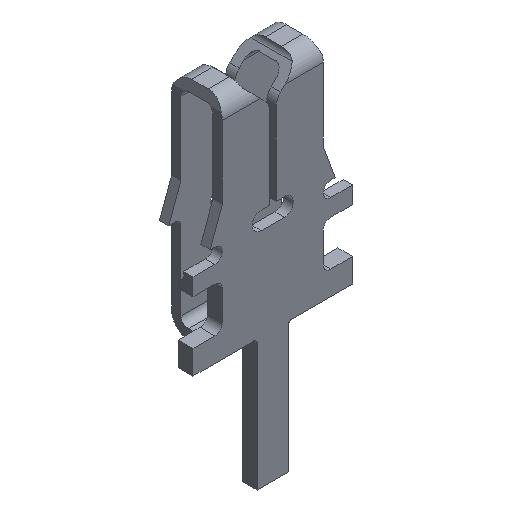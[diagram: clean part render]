
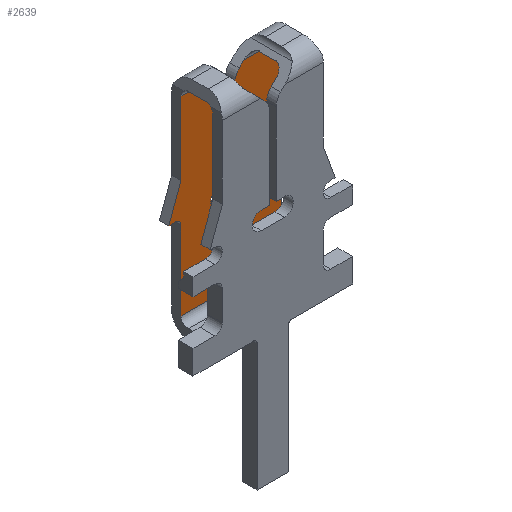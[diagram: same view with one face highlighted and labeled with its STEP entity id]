
A CAD part, isometric view. The second image highlights one B-rep face of the part: STEP entity #2639.
In plain terms, the highlighted planar face has unit normal (0, -1, 0).
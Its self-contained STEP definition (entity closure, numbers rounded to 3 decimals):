
#914=DIRECTION('',(-1.,0.,0.));
#915=VECTOR('',#914,0.235);
#916=CARTESIAN_POINT('',(2.127,1.407,-4.191));
#917=LINE('',#916,#915);
#918=DIRECTION('',(0.,0.,1.));
#919=VECTOR('',#918,2.677);
#920=CARTESIAN_POINT('',(1.715,1.407,-7.046));
#921=LINE('',#920,#919);
#922=DIRECTION('',(1.,0.,0.));
#923=VECTOR('',#922,3.429);
#924=CARTESIAN_POINT('',(-1.715,1.407,-7.046));
#925=LINE('',#924,#923);
#926=DIRECTION('',(0.,0.,1.));
#927=VECTOR('',#926,2.677);
#928=CARTESIAN_POINT('',(-1.715,1.407,-7.046));
#929=LINE('',#928,#927);
#930=DIRECTION('',(1.,0.,0.));
#931=VECTOR('',#930,0.235);
#932=CARTESIAN_POINT('',(-2.127,1.407,-4.191));
#933=LINE('',#932,#931);
#934=DIRECTION('',(0.342,0.,0.94));
#935=VECTOR('',#934,1.207);
#936=CARTESIAN_POINT('',(-2.127,1.407,-4.191));
#937=LINE('',#936,#935);
#938=DIRECTION('',(0.,0.,-1.));
#939=VECTOR('',#938,2.483);
#940=CARTESIAN_POINT('',(-1.715,1.407,-0.574));
#941=LINE('',#940,#939);
#942=DIRECTION('',(1.,0.,0.));
#943=VECTOR('',#942,1.285);
#944=CARTESIAN_POINT('',(-1.715,1.407,-0.574));
#945=LINE('',#944,#943);
#946=DIRECTION('',(0.707,0.,-0.707));
#947=VECTOR('',#946,0.235);
#948=CARTESIAN_POINT('',(-0.429,1.407,-0.574));
#949=LINE('',#948,#947);
#950=CARTESIAN_POINT('',(-0.622,1.407,-1.099));
#951=DIRECTION('',(0.,1.,0.));
#952=DIRECTION('',(0.707,0.,0.707));
#953=AXIS2_PLACEMENT_3D('',#950,#951,#952);
#955=DIRECTION('',(0.,0.,1.));
#956=VECTOR('',#955,2.787);
#957=CARTESIAN_POINT('',(-0.114,1.407,-3.886));
#958=LINE('',#957,#956);
#959=DIRECTION('',(1.,0.,0.));
#960=VECTOR('',#959,0.279);
#961=CARTESIAN_POINT('',(-0.394,1.407,-3.886));
#962=LINE('',#961,#960);
#963=CARTESIAN_POINT('',(-0.394,1.407,-4.191));
#964=DIRECTION('',(0.,1.,0.));
#965=DIRECTION('',(0.,0.,-1.));
#966=AXIS2_PLACEMENT_3D('',#963,#964,#965);
#968=DIRECTION('',(-1.,0.,0.));
#969=VECTOR('',#968,0.787);
#970=CARTESIAN_POINT('',(0.394,1.407,-4.496));
#971=LINE('',#970,#969);
#972=CARTESIAN_POINT('',(0.394,1.407,-4.191));
#973=DIRECTION('',(0.,1.,0.));
#974=DIRECTION('',(0.,0.,1.));
#975=AXIS2_PLACEMENT_3D('',#972,#973,#974);
#977=DIRECTION('',(1.,0.,0.));
#978=VECTOR('',#977,0.279);
#979=CARTESIAN_POINT('',(0.114,1.407,-3.886));
#980=LINE('',#979,#978);
#981=DIRECTION('',(0.,0.,-1.));
#982=VECTOR('',#981,2.787);
#983=CARTESIAN_POINT('',(0.114,1.407,-1.099));
#984=LINE('',#983,#982);
#985=CARTESIAN_POINT('',(0.622,1.407,-1.099));
#986=DIRECTION('',(0.,1.,0.));
#987=DIRECTION('',(-1.,0.,0.));
#988=AXIS2_PLACEMENT_3D('',#985,#986,#987);
#990=DIRECTION('',(-0.707,0.,-0.707));
#991=VECTOR('',#990,0.235);
#992=CARTESIAN_POINT('',(0.429,1.407,-0.574));
#993=LINE('',#992,#991);
#994=DIRECTION('',(1.,0.,0.));
#995=VECTOR('',#994,1.285);
#996=CARTESIAN_POINT('',(0.429,1.407,-0.574));
#997=LINE('',#996,#995);
#998=DIRECTION('',(0.,0.,-1.));
#999=VECTOR('',#998,2.483);
#1000=CARTESIAN_POINT('',(1.715,1.407,-0.574));
#1001=LINE('',#1000,#999);
#1002=DIRECTION('',(0.342,0.,-0.94));
#1003=VECTOR('',#1002,1.207);
#1004=CARTESIAN_POINT('',(1.715,1.407,-3.057));
#1005=LINE('',#1004,#1003);
#1015=CARTESIAN_POINT('',(1.892,1.407,-4.369));
#1016=DIRECTION('',(0.,1.,0.));
#1017=DIRECTION('',(-1.,0.,0.));
#1018=AXIS2_PLACEMENT_3D('',#1015,#1016,#1017);
#1135=CARTESIAN_POINT('',(-1.892,1.407,-4.369));
#1136=DIRECTION('',(0.,1.,0.));
#1137=DIRECTION('',(0.,0.,1.));
#1138=AXIS2_PLACEMENT_3D('',#1135,#1136,#1137);
#1406=CARTESIAN_POINT('',(-1.715,1.407,-0.574));
#1407=CARTESIAN_POINT('',(-1.715,1.407,-3.057));
#1408=VERTEX_POINT('',#1406);
#1409=VERTEX_POINT('',#1407);
#1410=CARTESIAN_POINT('',(1.715,1.407,-0.574));
#1411=CARTESIAN_POINT('',(1.715,1.407,-3.057));
#1412=VERTEX_POINT('',#1410);
#1413=VERTEX_POINT('',#1411);
#1422=CARTESIAN_POINT('',(2.127,1.407,-4.191));
#1424=VERTEX_POINT('',#1422);
#1426=CARTESIAN_POINT('',(-2.127,1.407,-4.191));
#1428=VERTEX_POINT('',#1426);
#1446=CARTESIAN_POINT('',(-1.715,1.407,-7.046));
#1447=VERTEX_POINT('',#1446);
#1448=CARTESIAN_POINT('',(1.715,1.407,-7.046));
#1449=VERTEX_POINT('',#1448);
#1542=CARTESIAN_POINT('',(-0.114,1.407,-3.886));
#1543=CARTESIAN_POINT('',(-0.114,1.407,-1.099));
#1544=VERTEX_POINT('',#1542);
#1545=VERTEX_POINT('',#1543);
#1546=CARTESIAN_POINT('',(-0.263,1.407,-0.74));
#1547=VERTEX_POINT('',#1546);
#1548=CARTESIAN_POINT('',(-0.429,1.407,-0.574));
#1549=VERTEX_POINT('',#1548);
#1550=CARTESIAN_POINT('',(0.429,1.407,-0.574));
#1551=CARTESIAN_POINT('',(0.263,1.407,-0.74));
#1552=VERTEX_POINT('',#1550);
#1553=VERTEX_POINT('',#1551);
#1554=CARTESIAN_POINT('',(0.114,1.407,-1.099));
#1555=VERTEX_POINT('',#1554);
#1556=CARTESIAN_POINT('',(0.114,1.407,-3.886));
#1557=VERTEX_POINT('',#1556);
#1558=CARTESIAN_POINT('',(0.394,1.407,-3.886));
#1559=VERTEX_POINT('',#1558);
#1560=CARTESIAN_POINT('',(0.394,1.407,-4.496));
#1561=VERTEX_POINT('',#1560);
#1562=CARTESIAN_POINT('',(-0.394,1.407,-4.496));
#1563=VERTEX_POINT('',#1562);
#1564=CARTESIAN_POINT('',(-0.394,1.407,-3.886));
#1565=VERTEX_POINT('',#1564);
#1619=CARTESIAN_POINT('',(-1.715,1.407,-4.369));
#1621=VERTEX_POINT('',#1619);
#1623=CARTESIAN_POINT('',(-1.892,1.407,-4.191));
#1625=VERTEX_POINT('',#1623);
#1627=CARTESIAN_POINT('',(1.892,1.407,-4.191));
#1629=VERTEX_POINT('',#1627);
#1631=CARTESIAN_POINT('',(1.715,1.407,-4.369));
#1633=VERTEX_POINT('',#1631);
#2589=CARTESIAN_POINT('',(2.127,1.407,-0.32));
#2590=DIRECTION('',(0.,-1.,0.));
#2591=DIRECTION('',(0.,0.,-1.));
#2592=AXIS2_PLACEMENT_3D('',#2589,#2590,#2591);
#2593=PLANE('',#2592);
#2595=ORIENTED_EDGE('',*,*,#2594,.T.);
#2597=ORIENTED_EDGE('',*,*,#2596,.F.);
#2599=ORIENTED_EDGE('',*,*,#2598,.F.);
#2601=ORIENTED_EDGE('',*,*,#2600,.F.);
#2603=ORIENTED_EDGE('',*,*,#2602,.T.);
#2605=ORIENTED_EDGE('',*,*,#2604,.F.);
#2607=ORIENTED_EDGE('',*,*,#2606,.F.);
#2609=ORIENTED_EDGE('',*,*,#2608,.T.);
#2610=ORIENTED_EDGE('',*,*,#2474,.F.);
#2611=ORIENTED_EDGE('',*,*,#2566,.T.);
#2612=ORIENTED_EDGE('',*,*,#2395,.T.);
#2614=ORIENTED_EDGE('',*,*,#2613,.T.);
#2616=ORIENTED_EDGE('',*,*,#2615,.F.);
#2618=ORIENTED_EDGE('',*,*,#2617,.F.);
#2620=ORIENTED_EDGE('',*,*,#2619,.F.);
#2622=ORIENTED_EDGE('',*,*,#2621,.F.);
#2624=ORIENTED_EDGE('',*,*,#2623,.F.);
#2626=ORIENTED_EDGE('',*,*,#2625,.F.);
#2628=ORIENTED_EDGE('',*,*,#2627,.F.);
#2630=ORIENTED_EDGE('',*,*,#2629,.T.);
#2632=ORIENTED_EDGE('',*,*,#2631,.F.);
#2633=ORIENTED_EDGE('',*,*,#2584,.T.);
#2634=ORIENTED_EDGE('',*,*,#2309,.T.);
#2636=ORIENTED_EDGE('',*,*,#2635,.T.);
#2637=EDGE_LOOP('',(#2595,#2597,#2599,#2601,#2603,#2605,#2607,#2609,#2610,#2611,
#2612,#2614,#2616,#2618,#2620,#2622,#2624,#2626,#2628,#2630,#2632,#2633,#2634,
#2636));
#2638=FACE_OUTER_BOUND('',#2637,.F.);
#954=CIRCLE('',#953,0.508);
#967=CIRCLE('',#966,0.305);
#976=CIRCLE('',#975,0.305);
#989=CIRCLE('',#988,0.508);
#1019=CIRCLE('',#1018,0.178);
#1139=CIRCLE('',#1138,0.178);
#2309=EDGE_CURVE('',#1412,#1413,#1001,.T.);
#2395=EDGE_CURVE('',#1549,#1547,#949,.T.);
#2474=EDGE_CURVE('',#1408,#1409,#941,.T.);
#2566=EDGE_CURVE('',#1408,#1549,#945,.T.);
#2584=EDGE_CURVE('',#1552,#1412,#997,.T.);
#2594=EDGE_CURVE('',#1424,#1629,#917,.T.);
#2596=EDGE_CURVE('',#1633,#1629,#1019,.T.);
#2598=EDGE_CURVE('',#1449,#1633,#921,.T.);
#2600=EDGE_CURVE('',#1447,#1449,#925,.T.);
#2602=EDGE_CURVE('',#1447,#1621,#929,.T.);
#2604=EDGE_CURVE('',#1625,#1621,#1139,.T.);
#2606=EDGE_CURVE('',#1428,#1625,#933,.T.);
#2608=EDGE_CURVE('',#1428,#1409,#937,.T.);
#2613=EDGE_CURVE('',#1547,#1545,#954,.T.);
#2615=EDGE_CURVE('',#1544,#1545,#958,.T.);
#2617=EDGE_CURVE('',#1565,#1544,#962,.T.);
#2619=EDGE_CURVE('',#1563,#1565,#967,.T.);
#2621=EDGE_CURVE('',#1561,#1563,#971,.T.);
#2623=EDGE_CURVE('',#1559,#1561,#976,.T.);
#2625=EDGE_CURVE('',#1557,#1559,#980,.T.);
#2627=EDGE_CURVE('',#1555,#1557,#984,.T.);
#2629=EDGE_CURVE('',#1555,#1553,#989,.T.);
#2631=EDGE_CURVE('',#1552,#1553,#993,.T.);
#2635=EDGE_CURVE('',#1413,#1424,#1005,.T.);
#2639=ADVANCED_FACE('',(#2638),#2593,.T.);
